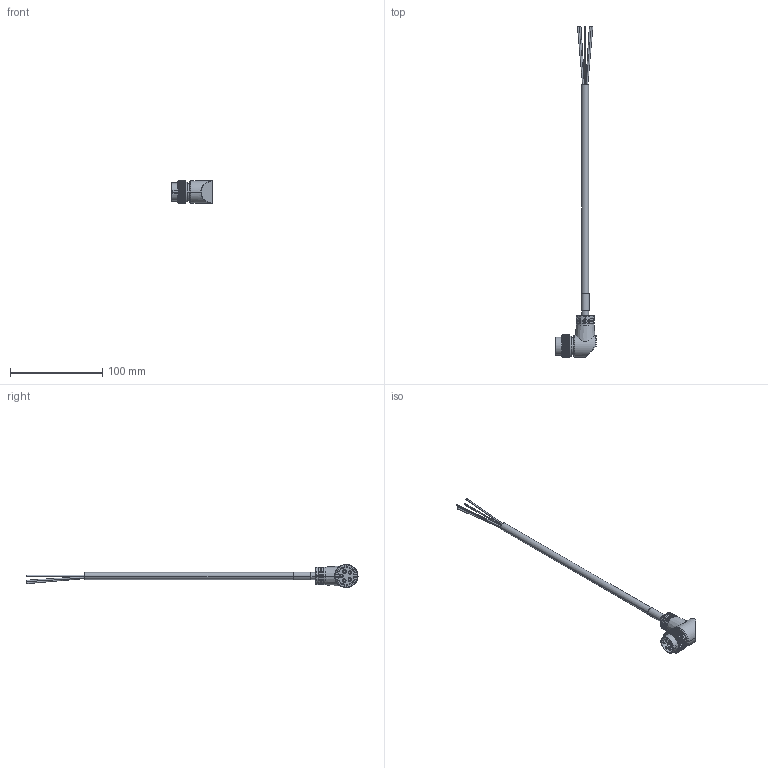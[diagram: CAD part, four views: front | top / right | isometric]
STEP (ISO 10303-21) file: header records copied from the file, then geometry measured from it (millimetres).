
FILE_DESCRIPTION((''),'2;1');
FILE_NAME('889N-V5AEC-6F','2014-03-28T',('20019289'),('Rockwell Automation'),'PRO/ENGINEER BY PARAMETRIC TECHNOLOGY CORPORATION, 2009460','PRO/ENGINEER BY PARAMETRIC TECHNOLOGY CORPORATION, 2009460','');
FILE_SCHEMA(('CONFIG_CONTROL_DESIGN'));
Length unit declared in the file: inch
Products named in the file (1): 889N-V5AEC-6F
Bounding box: 43.69 x 359.24 x 25.38 mm (x, y, z)
Volume: 34379.4 mm3; surface area: 15877.8 mm2
Topology: 1 solids, 1 shells, 539 faces, 1271 edges, 753 vertices
Faces by surface type: plane 271, cylinder 201, cone 48, torus 15, bspline 2, sphere 2
Entity records: 16044 total; most frequent: CARTESIAN_POINT 3596, DIRECTION 2709, ORIENTED_EDGE 2542, EDGE_CURVE 1271, AXIS2_PLACEMENT_3D 1047, VERTEX_POINT 753, VECTOR 615, LINE 615
